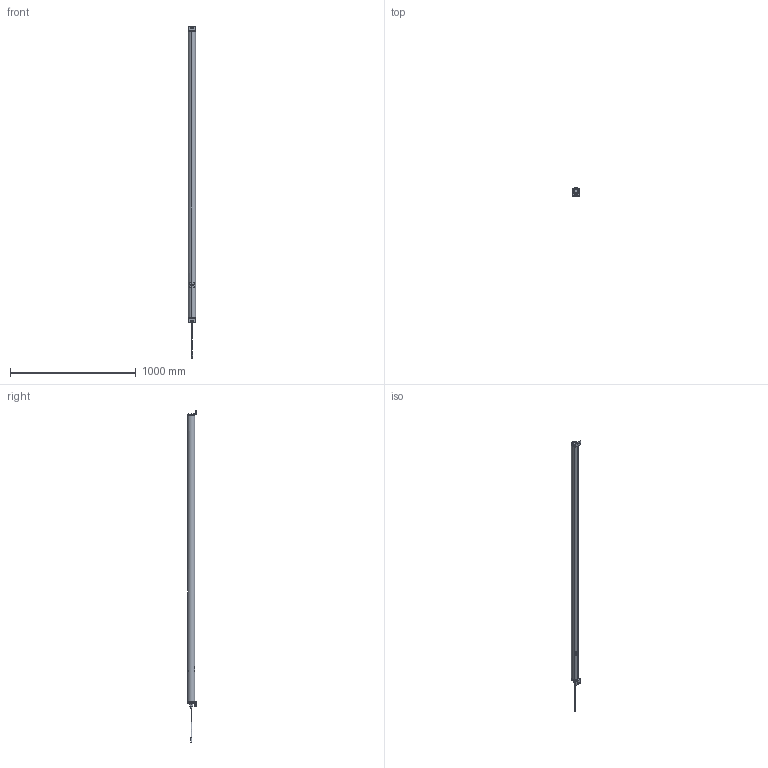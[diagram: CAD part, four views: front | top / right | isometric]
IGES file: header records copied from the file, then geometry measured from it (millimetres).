
Global section: file name: C:\ACADFILES\SS_PYLONS\CUSTOMER_FILES\SS-88-PYLON_3D_SMB_PT.igs; native system: AutoCAD-18.2s (LMS Tech) (Microsoft Windows NT Version 6.1 (x86)); preprocessor: Autodesk IGES Translator Mechanical Desktop 2011 (Feb 18 2011) from Autodesk, Inc.; date: 20140326.135513; units: inch
Bounding box: 57.29 x 69.85 x 2641.97 mm (x, y, z)
Surface area: 1696389.4 mm2 (no closed solid volume)
Topology: 0 solids, 0 shells, 1800 faces, 9329 edges, 9504 vertices
Faces by surface type: bspline 1800
